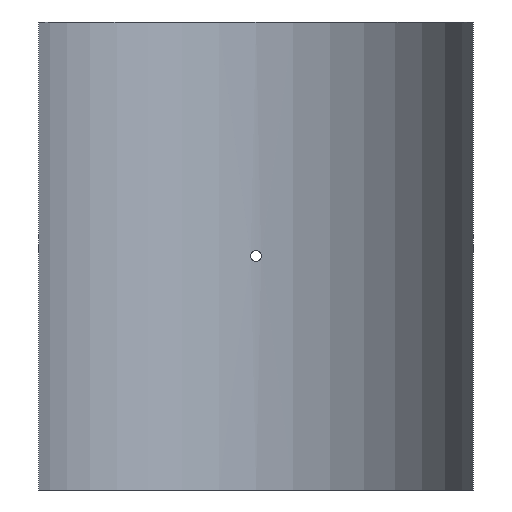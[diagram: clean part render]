
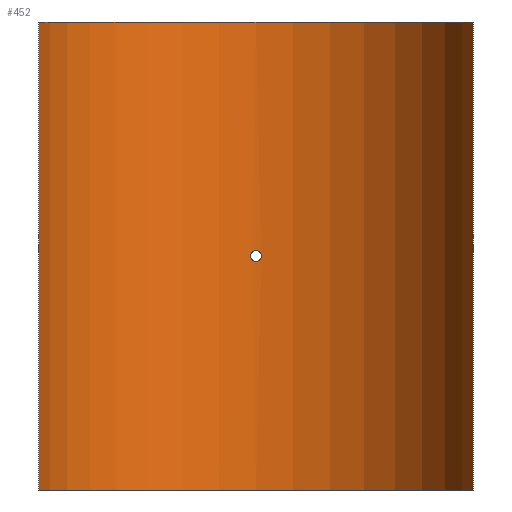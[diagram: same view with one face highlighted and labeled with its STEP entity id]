
A CAD part, front view. The second image highlights one B-rep face of the part: STEP entity #452.
In plain terms, the highlighted cylindrical face has radius 200 mm (diameter 400 mm), a partial arc.
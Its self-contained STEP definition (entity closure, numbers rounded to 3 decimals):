
#19=B_SPLINE_CURVE_WITH_KNOTS('',3,(#788,#789,#790,#791,#792,#793,#794,
#795,#796,#797,#798,#799,#800,#801,#802,#803,#804,#805,#806,#807,#808,#809,
#810,#811,#812,#813,#814,#815,#816,#817,#818,#819,#820,#821),
 .UNSPECIFIED.,.T.,.F.,(4,2,2,2,2,2,2,2,2,2,2,2,2,2,2,2,4),(0.,0.181,
0.362,0.542,0.723,0.904,
1.085,1.266,1.447,1.627,1.808,
1.989,2.17,2.351,2.531,2.712,
2.893),.UNSPECIFIED.);
#43=LINE('',#1073,#62);
#44=LINE('',#1076,#63);
#62=VECTOR('',#661,10.);
#63=VECTOR('',#664,10.);
#76=CYLINDRICAL_SURFACE('',#530,200.);
#88=FACE_BOUND('',#167,.T.);
#127=FACE_OUTER_BOUND('',#166,.T.);
#166=EDGE_LOOP('',(#405,#406,#407,#408));
#167=EDGE_LOOP('',(#409));
#201=CIRCLE('',#529,200.);
#202=CIRCLE('',#531,200.);
#219=VERTEX_POINT('',#786);
#242=VERTEX_POINT('',#1066);
#243=VERTEX_POINT('',#1068);
#244=VERTEX_POINT('',#1072);
#245=VERTEX_POINT('',#1074);
#267=EDGE_CURVE('',#219,#219,#19,.T.);
#299=EDGE_CURVE('',#242,#243,#201,.T.);
#301=EDGE_CURVE('',#244,#242,#43,.T.);
#302=EDGE_CURVE('',#245,#244,#202,.T.);
#303=EDGE_CURVE('',#245,#243,#44,.T.);
#405=ORIENTED_EDGE('',*,*,#301,.F.);
#406=ORIENTED_EDGE('',*,*,#302,.F.);
#407=ORIENTED_EDGE('',*,*,#303,.T.);
#408=ORIENTED_EDGE('',*,*,#299,.F.);
#409=ORIENTED_EDGE('',*,*,#267,.T.);
#452=ADVANCED_FACE('',(#127,#88),#76,.F.);
#529=AXIS2_PLACEMENT_3D('',#1069,#656,#657);
#530=AXIS2_PLACEMENT_3D('',#1071,#659,#660);
#531=AXIS2_PLACEMENT_3D('',#1075,#662,#663);
#656=DIRECTION('center_axis',(0.,0.,1.));
#657=DIRECTION('ref_axis',(0.975,0.222,0.));
#659=DIRECTION('center_axis',(0.,0.,1.));
#660=DIRECTION('ref_axis',(0.975,0.222,0.));
#661=DIRECTION('',(0.,0.,-1.));
#662=DIRECTION('center_axis',(0.,0.,-1.));
#663=DIRECTION('ref_axis',(0.975,0.222,0.));
#664=DIRECTION('',(0.,0.,-1.));
#786=CARTESIAN_POINT('',(4.8,199.942,0.));
#788=CARTESIAN_POINT('Ctrl Pts',(4.8,199.942,0.));
#789=CARTESIAN_POINT('Ctrl Pts',(4.8,199.942,-0.603));
#790=CARTESIAN_POINT('Ctrl Pts',(4.68,199.945,-1.246));
#791=CARTESIAN_POINT('Ctrl Pts',(4.19,199.956,-2.428));
#792=CARTESIAN_POINT('Ctrl Pts',(3.82,199.964,-2.968));
#793=CARTESIAN_POINT('Ctrl Pts',(2.968,199.978,-3.82));
#794=CARTESIAN_POINT('Ctrl Pts',(2.428,199.986,-4.19));
#795=CARTESIAN_POINT('Ctrl Pts',(1.246,199.997,-4.68));
#796=CARTESIAN_POINT('Ctrl Pts',(0.603,200.,-4.8));
#797=CARTESIAN_POINT('Ctrl Pts',(-0.603,200.,-4.8));
#798=CARTESIAN_POINT('Ctrl Pts',(-1.246,199.997,-4.68));
#799=CARTESIAN_POINT('Ctrl Pts',(-2.428,199.986,-4.19));
#800=CARTESIAN_POINT('Ctrl Pts',(-2.968,199.978,-3.82));
#801=CARTESIAN_POINT('Ctrl Pts',(-3.82,199.964,-2.968));
#802=CARTESIAN_POINT('Ctrl Pts',(-4.19,199.956,-2.428));
#803=CARTESIAN_POINT('Ctrl Pts',(-4.68,199.945,-1.246));
#804=CARTESIAN_POINT('Ctrl Pts',(-4.8,199.942,-0.603));
#805=CARTESIAN_POINT('Ctrl Pts',(-4.8,199.942,0.603));
#806=CARTESIAN_POINT('Ctrl Pts',(-4.68,199.945,1.246));
#807=CARTESIAN_POINT('Ctrl Pts',(-4.19,199.956,2.428));
#808=CARTESIAN_POINT('Ctrl Pts',(-3.82,199.964,2.968));
#809=CARTESIAN_POINT('Ctrl Pts',(-2.968,199.978,3.82));
#810=CARTESIAN_POINT('Ctrl Pts',(-2.428,199.986,4.19));
#811=CARTESIAN_POINT('Ctrl Pts',(-1.246,199.997,4.68));
#812=CARTESIAN_POINT('Ctrl Pts',(-0.603,200.,4.8));
#813=CARTESIAN_POINT('Ctrl Pts',(0.603,200.,4.8));
#814=CARTESIAN_POINT('Ctrl Pts',(1.246,199.997,4.68));
#815=CARTESIAN_POINT('Ctrl Pts',(2.428,199.986,4.19));
#816=CARTESIAN_POINT('Ctrl Pts',(2.968,199.978,3.82));
#817=CARTESIAN_POINT('Ctrl Pts',(3.82,199.964,2.968));
#818=CARTESIAN_POINT('Ctrl Pts',(4.19,199.956,2.428));
#819=CARTESIAN_POINT('Ctrl Pts',(4.68,199.945,1.246));
#820=CARTESIAN_POINT('Ctrl Pts',(4.8,199.942,0.603));
#821=CARTESIAN_POINT('Ctrl Pts',(4.8,199.942,0.));
#1066=CARTESIAN_POINT('',(195.,44.441,-210.));
#1068=CARTESIAN_POINT('',(-195.,44.441,-210.));
#1069=CARTESIAN_POINT('Origin',(0.,0.,
-210.));
#1071=CARTESIAN_POINT('Origin',(0.,0.,
0.));
#1072=CARTESIAN_POINT('',(195.,44.441,210.));
#1073=CARTESIAN_POINT('',(195.,44.441,0.));
#1074=CARTESIAN_POINT('',(-195.,44.441,210.));
#1075=CARTESIAN_POINT('Origin',(0.,0.,
210.));
#1076=CARTESIAN_POINT('',(-195.,44.441,0.));
